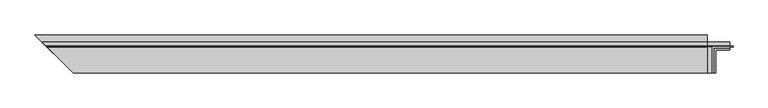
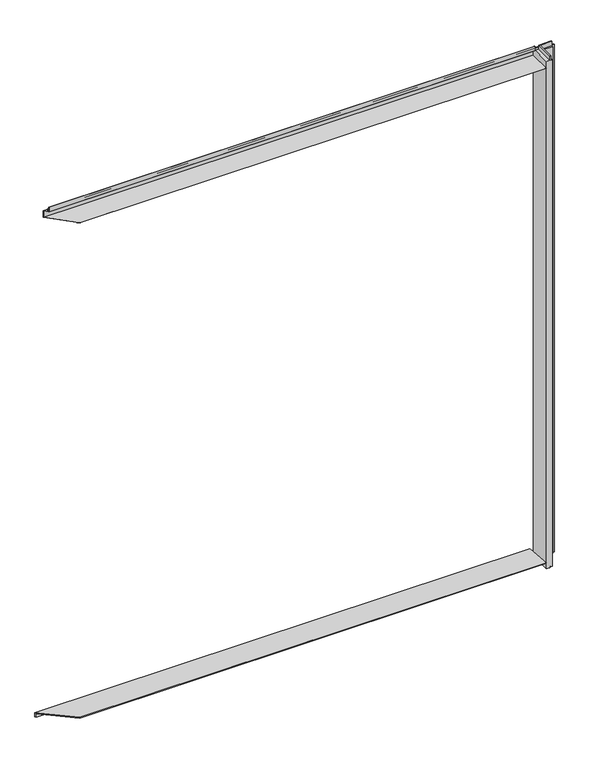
"""IFC4 building model written with IfcOpenShell, lengths in millimetres: plate geometry, Trimo_Qbiss Screen_Wall Opening Trims-HORIZONTAL : HR - B."""

from ifc_helpers import new_model, si_unit, frame, origin, origin_with_axes, place, context, project, spatial, polyline, outline, extrude, faceted_brep, source, transform, mapped, element, save


def plate_bb86a2eb(model_context):
    return source(origin(), model_context, "Body", "SolidModel", [
        faceted_brep([(1674.0, -92.0, 4487.0), (1645.0, -92.0, 4487.0), (1645.0, -92.0, 0.0), (1673.0, -92.0, 0.0), (1673.0, -92.0, 15.5), (1683.0, -92.0, 15.5), (1683.0, -92.0, 7.0), (1695.0, -92.0, 7.0), (1695.0, -92.0, 4487.0), (1682.0, -92.0, 4487.0), (1682.0, -92.0, 4524.5), (1674.0, -92.0, 4524.5), (1645.0, 100.0, 0.0), (1645.0, 100.0, 4487.0), (1780.0, 100.0, 4487.0), (1780.0, 100.0, 0.0), (1673.0, 72.0, 15.5), (1673.0, 72.0, 0.0), (1780.0, 72.0, 0.0), (1780.0, 72.0, 15.5), (1683.0, 62.0, 7.0), (1683.0, 62.0, 15.5), (1780.0, 62.0, 15.5), (1780.0, 62.0, 7.0), (1695.0, 50.0, 4487.0), (1695.0, 50.0, 7.0), (1780.0, 50.0, 7.0), (1780.0, 50.0, 4487.0), (1682.0, 63.0, 4524.5), (1682.0, 63.0, 4487.0), (1780.0, 63.0, 4487.0), (1780.0, 63.0, 4524.5), (1674.0, 71.0, 4487.0), (1674.0, 71.0, 4524.5), (1780.0, 71.0, 4524.5), (1780.0, 71.0, 4487.0)], [[[0, 1, 2, 3, 4, 5, 6, 7, 8, 9, 10, 11]], [[12, 13, 14, 15]], [[16, 17, 18, 19]], [[20, 21, 22, 23]], [[24, 25, 26, 27]], [[28, 29, 30, 31]], [[32, 33, 34, 35]], [[35, 34, 31, 30, 27, 26, 23, 22, 19, 18, 15, 14]], [[1, 0, 32, 35, 14, 13]], [[2, 1, 13, 12]], [[3, 2, 12, 15, 18, 17]], [[4, 3, 17, 16]], [[5, 4, 16, 19, 22, 21]], [[6, 5, 21, 20]], [[7, 6, 20, 23, 26, 25]], [[8, 7, 25, 24]], [[9, 8, 24, 27, 30, 29]], [[10, 9, 29, 28]], [[11, 10, 28, 31, 34, 33]], [[0, 11, 33, 32]]]),
        extrude(outline(polyline([(1783.0, 76.5978162), (1802.0, 76.5978162), (1802.0, 67.8978162), (1783.0, 67.8978162), (1783.0, 76.5978162)])), origin_with_axes(), (0.0, 0.0, 1.0), 4487.0),
        faceted_brep([(1643.0, 71.0, 4487.0), (1643.0, 71.0, 4524.5), (1643.0, 70.0, 4524.5), (1643.0, 70.0, 4486.0), (1643.0, 99.0, 4486.0), (1643.0, 99.0, 4430.0), (1643.0, -92.0, 4430.0), (1643.0, -92.0, 4429.0), (1643.0, 100.0, 4429.0), (1643.0, 100.0, 4487.0), (-2426.0, 71.0, 4487.0), (-2426.0, 71.0, 4524.5), (-2425.0, 70.0, 4524.5), (-2425.0, 70.0, 4486.0), (-2454.0, 99.0, 4486.0), (-2454.0, 99.0, 4430.0), (-2263.0, -92.0, 4430.0), (-2263.0, -92.0, 4429.0), (-2455.0, 100.0, 4429.0), (-2455.0, 100.0, 4487.0)], [[[0, 1, 2, 3, 4, 5, 6, 7, 8, 9]], [[1, 0, 10, 11]], [[2, 1, 11, 12]], [[3, 2, 12, 13]], [[4, 3, 13, 14]], [[5, 4, 14, 15]], [[6, 5, 15, 16]], [[7, 6, 16, 17]], [[8, 7, 17, 18]], [[9, 8, 18, 19]], [[0, 9, 19, 10]], [[11, 10, 19, 18, 17, 16, 15, 14, 13, 12]]]),
        faceted_brep([(1643.0, 138.0, 29.8042278), (1643.0, 138.0, 0.0), (1643.0, 145.0, 0.0), (1643.0, 145.0, 36.234396), (1643.0, -92.0, 56.3821274), (1643.0, -92.0, 49.3568786), (-2493.0, 138.0, 29.8042278), (-2493.0, 138.0, 0.0), (-2500.0, 145.0, 0.0), (-2500.0, 145.0, 36.234396), (-2263.0, -92.0, 56.3821274), (-2263.0, -92.0, 49.3568786)], [[[0, 1, 2, 3, 4, 5]], [[1, 0, 6, 7]], [[2, 1, 7, 8]], [[3, 2, 8, 9]], [[4, 3, 9, 10]], [[5, 4, 10, 11]], [[0, 5, 11, 6]], [[7, 6, 11, 10, 9, 8]]]),
        extrude(outline(polyline([(1780.0, 76.0), (1780.0, 71.0), (-2426.0, 71.0), (-2431.0, 76.0), (1780.0, 76.0)])), frame((0.0, 0.0, 4488.0), z_axis=(0.0, 0.0, 1.0), x_axis=(1.0, 0.0, 0.0)), (0.0, 0.0, 1.0), 21.0),
    ])


if __name__ == "__main__":
    model = new_model("IFC4")
    model_context = context("Model", 3, world=origin())
    ifc_project = project(units=[si_unit("LENGTHUNIT", "METRE", prefix="MILLI")], contexts=[model_context])
    site = spatial("IfcSite", under=ifc_project)
    building = spatial("IfcBuilding", under=site)
    placement = place(None, origin())
    plate_shape = plate_bb86a2eb(model_context)
    element("IfcPlate", 1, ObjectType="Trimo_Qbiss Screen_Wall Opening Trims-HORIZONTAL : HR - B", at=placement, inside=building, context=model_context, shape_type="MappedRepresentation", body=[
        mapped(plate_shape, transform((0.0, 0.0, 0.0), x_axis=(1.0, 0.0, 0.0), y_axis=(0.0, 1.0, 0.0), z_axis=(0.0, 0.0, 1.0))),
    ])
    save(model, "model.ifc")
